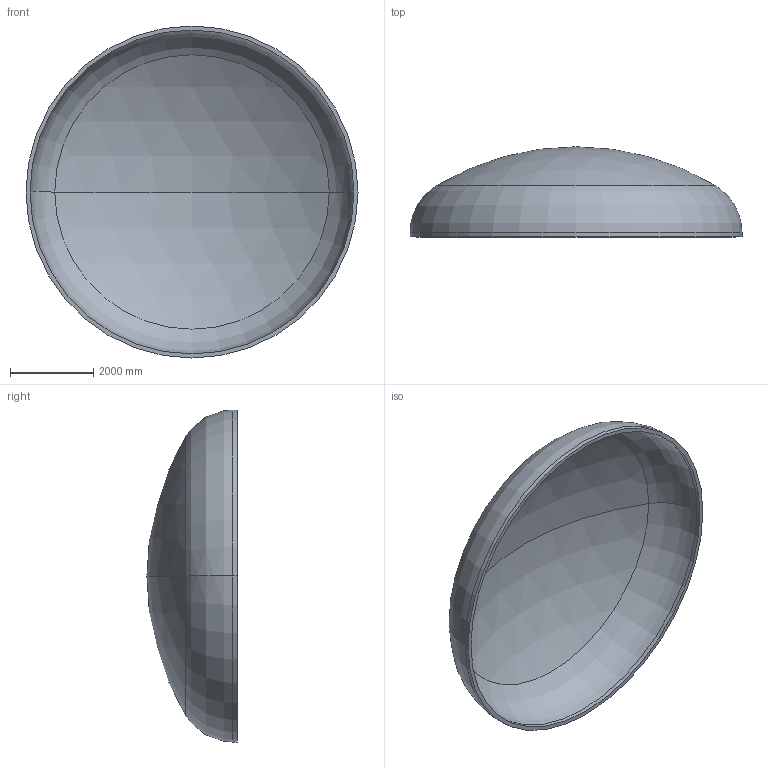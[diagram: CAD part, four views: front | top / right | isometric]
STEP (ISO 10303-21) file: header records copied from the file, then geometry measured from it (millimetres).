
FILE_DESCRIPTION (( 'STEP AP203' ), '1' );
FILE_NAME ('DIN 28013 Korbbogenform_-_Boden DIN 28013 - 8000 x 100 - I - s=98.step', '2016-07-04T11:05:01', ( '' ), ( '' ), 'SwSTEP 2.0', 'SolidWorks 2013', '' );
FILE_SCHEMA (( 'CONFIG_CONTROL_DESIGN' ));
Length unit declared in the file: millimetre
Products named in the file (1): DIN 28013 Korbbogenform_-_Boden DIN 28013 - 8000 x 100 - I - s=98
Bounding box: 8000 x 2172.02 x 8000 mm (x, y, z)
Volume: 6954000603.5 mm3; surface area: 144371276.2 mm2
Topology: 1 solids, 1 shells, 13 faces, 24 edges, 14 vertices
Faces by surface type: torus 4, cylinder 4, sphere 4, plane 1
Entity records: 407 total; most frequent: DIRECTION 72, CARTESIAN_POINT 52, ORIENTED_EDGE 48, AXIS2_PLACEMENT_3D 34, EDGE_CURVE 24, CIRCLE 20, VERTEX_POINT 14, EDGE_LOOP 14
